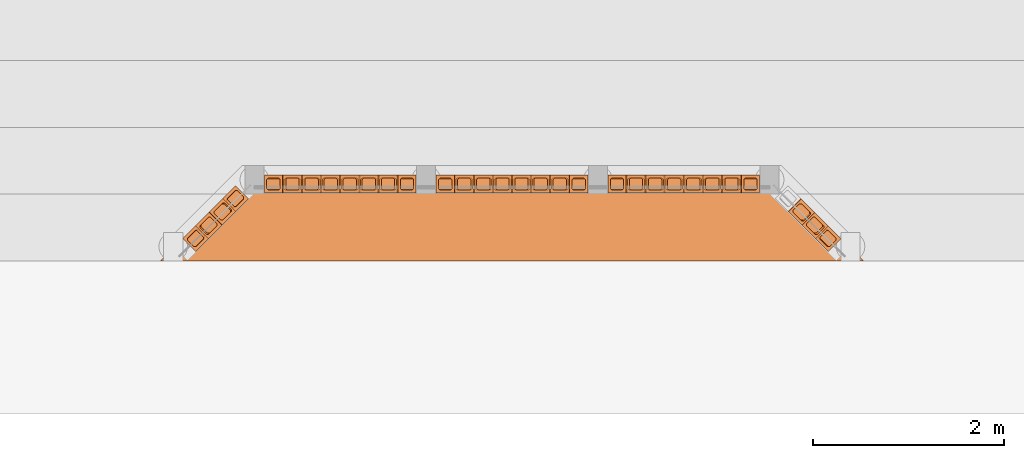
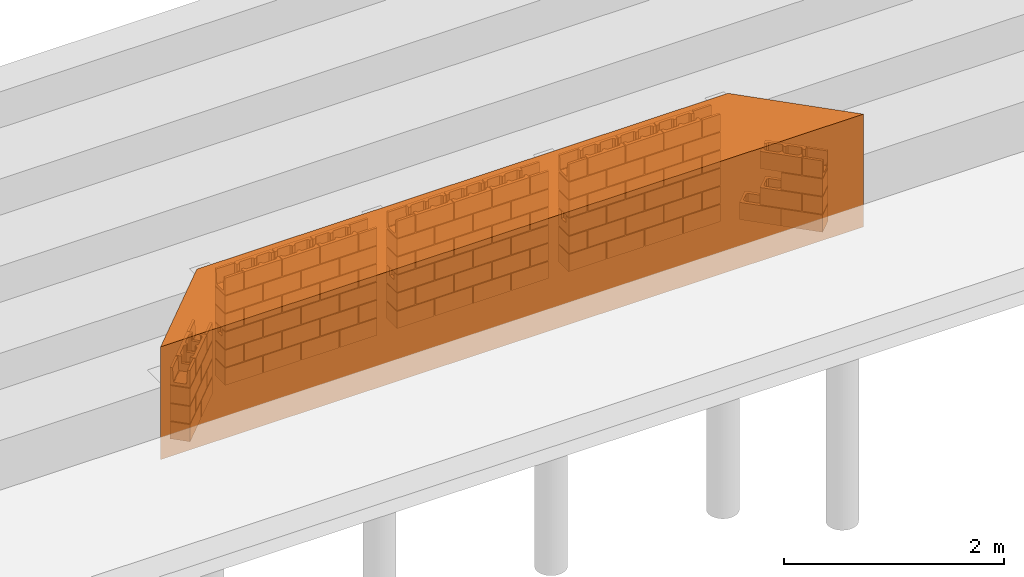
# One storey, part 3 of 4: 99 proxies.
"""IFC4 building model written with IfcOpenShell, lengths in centimetres."""

from ifc_helpers import new_model, entity, si_unit, converted_unit, derived_unit, direction, frame, origin, place, context, subcontext, project, spatial, line, arc, indexed_curve, outline, extrude, polygons, source, transform, mapped, material, type_object, type_shapes, element, save


model = new_model("IFC4")

# Units and contexts
model_context = context("Model", 3, precision=0.001, world=origin(), true_north=direction((6.123233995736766e-17, 1.0)))
body_context = subcontext(model_context, "Body", "Model", "MODEL_VIEW")
ifc_project = project(units=[si_unit("LENGTHUNIT", "METRE", prefix="CENTI"), si_unit("AREAUNIT", "SQUARE_METRE"), converted_unit("PLANEANGLEUNIT", "DEGREE", entity("IfcPlaneAngleMeasure", 0.017453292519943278), si_unit("PLANEANGLEUNIT", "RADIAN"), dimensions=[0, 0, 0, 0, 0, 0, 0]), si_unit("VOLUMEUNIT", "CUBIC_METRE"), derived_unit("THERMALTRANSMITTANCEUNIT", [(si_unit("MASSUNIT", "GRAM", prefix="KILO"), 1), (si_unit("THERMODYNAMICTEMPERATUREUNIT", "KELVIN"), -1), (si_unit("TIMEUNIT", "SECOND"), -3)])], contexts=[model_context])

# Site, building, storey
site_placement = place(None, origin())
site = spatial("IfcSite", under=ifc_project, at=site_placement, Name="Default", CompositionType="ELEMENT")
building_placement = place(site_placement, origin())
building = spatial("IfcBuilding", under=site, at=building_placement, Name="CONTENÇÃO DE ARQUIBANCADA - GINÁSIO PADRÃO", CompositionType="ELEMENT")
storey_placement = place(building_placement, origin())
storey = spatial("IfcBuildingStorey", under=building, at=storey_placement, Name="Nível 1", CompositionType="ELEMENT", Elevation=0.0)

# Proxies
ifc_material_1 = material(Name="Concreto, aerado", Category="Concreto")
building_element_proxy_type_1 = type_object("IfcBuildingElementProxyType", Name="Bloco de Concreto - Inteiro:Família 20 x 40 - Classe A", PredefinedType="NOTDEFINED", material=ifc_material_1)
shared_shape_1 = source(origin(), body_context, "Body", "SweptSolid", [
    extrude(outline(indexed_curve([(-19.499999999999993, -9.500000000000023), (19.499999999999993, -9.500000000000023), (19.499999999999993, 9.500000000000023), (-19.499999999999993, 9.500000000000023), (-19.499999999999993, -9.500000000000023)], self_intersect=False), holes=[indexed_curve([(2.750000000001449, -6.300000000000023), (1.2500000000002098, -4.799999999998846), (1.2500000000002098, 4.800000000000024), (2.7500000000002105, 6.300000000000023), (15.499999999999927, 6.300000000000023), (16.999999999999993, 4.799999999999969), (16.999999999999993, -4.799999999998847), (15.499999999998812, -6.300000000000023), (2.750000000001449, -6.300000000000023)], self_intersect=False), indexed_curve([(-15.50000000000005, -6.300000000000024), (-16.999999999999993, -4.799999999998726), (-16.999999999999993, 4.800000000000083), (-15.50000000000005, 6.300000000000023), (-2.749999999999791, 6.300000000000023), (-1.2499999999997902, 4.800000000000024), (-1.2499999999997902, -4.800000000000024), (-2.7499999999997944, -6.300000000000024), (-15.50000000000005, -6.300000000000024)], self_intersect=False)]), frame((0.0, 0.0, 0.0), z_axis=(0.0, 0.0, 1.0), x_axis=(-1.0, 0.0, 0.0)), (0.0, 0.0, 1.0), 19.0),
])
type_shapes(building_element_proxy_type_1, [shared_shape_1])
for number, where, z_axis, x_axis in (
    (1, (-12.153812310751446, 222.34882959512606, 1.0), (0.0, 0.0, 1.0), (0.706786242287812, 0.7074271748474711, 0.0)),
    (2, (-40.0845301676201, 194.41811173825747, 1.0), (0.0, 0.0, 1.0), (0.706786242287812, 0.7074271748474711, 0.0)),
):
    element("IfcBuildingElementProxy", number, at=place(storey_placement, frame(where, z_axis=z_axis, x_axis=x_axis)), inside=storey, type_object=building_element_proxy_type_1, material=ifc_material_1, Name="Bloco de Concreto - Inteiro:Família 20 x 40 - Classe A", ObjectType="Bloco de Concreto - Inteiro:Família 20 x 40 - Classe A", PredefinedType="NOTDEFINED", context=body_context, shape_type="MappedRepresentation", body=[
        mapped(shared_shape_1, transform((0.0, 0.0, 0.0), scale=1.0)),
    ])
for number, where in (
    (3, (44.455316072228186, 244.57417522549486, 1.0)),
    (4, (84.45531607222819, 244.57417522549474, 1.0)),
    (5, (124.45531607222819, 244.57417522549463, 1.0)),
    (6, (164.4553160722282, 244.5741752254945, 1.0)),
    (7, (404.4553160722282, 244.57417522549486, 1.0)),
    (8, (444.4553160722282, 244.57417522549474, 1.0)),
    (9, (484.4553160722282, 244.57417522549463, 1.0)),
    (10, (524.4553160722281, 244.5741752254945, 1.0)),
):
    element("IfcBuildingElementProxy", number, at=place(storey_placement, frame(where)), inside=storey, type_object=building_element_proxy_type_1, material=ifc_material_1, Name="Bloco de Concreto - Inteiro:Família 20 x 40 - Classe A", ObjectType="Bloco de Concreto - Inteiro:Família 20 x 40 - Classe A", PredefinedType="NOTDEFINED", context=body_context, shape_type="MappedRepresentation", body=[
        mapped(shared_shape_1, transform((0.0, 0.0, 0.0), scale=1.0)),
    ])
for number, where, z_axis, x_axis in (
    (11, (-25.939186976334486, 208.5570456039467, 21.0), (0.0, 0.0, 1.0), (-0.7067862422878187, -0.7074271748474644, 0.0)),
    (12, (-12.153812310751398, 222.34882959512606, 41.0), (0.0, 0.0, 1.0), (0.706786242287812, 0.7074271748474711, 0.0)),
    (13, (-40.08453016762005, 194.41811173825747, 41.0), (0.0, 0.0, 1.0), (0.706786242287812, 0.7074271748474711, 0.0)),
):
    element("IfcBuildingElementProxy", number, at=place(storey_placement, frame(where, z_axis=z_axis, x_axis=x_axis)), inside=storey, type_object=building_element_proxy_type_1, material=ifc_material_1, Name="Bloco de Concreto - Inteiro:Família 20 x 40 - Classe A", ObjectType="Bloco de Concreto - Inteiro:Família 20 x 40 - Classe A", PredefinedType="NOTDEFINED", context=body_context, shape_type="MappedRepresentation", body=[
        mapped(shared_shape_1, transform((0.0, 0.0, 0.0), scale=1.0)),
    ])
for number, where in (
    (14, (64.45531607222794, 244.57417522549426, 21.0)),
    (15, (104.45531607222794, 244.57417522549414, 21.0)),
    (16, (144.45531607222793, 244.57417522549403, 21.0)),
    (17, (64.45531607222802, 244.57417522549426, 61.0)),
    (18, (104.45531607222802, 244.57417522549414, 61.0)),
    (19, (144.455316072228, 244.57417522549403, 61.0)),
    (20, (44.45531607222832, 244.57417522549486, 81.0)),
    (21, (84.45531607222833, 244.57417522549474, 81.0)),
    (22, (124.4553160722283, 244.57417522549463, 81.0)),
    (23, (164.4553160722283, 244.5741752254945, 81.0)),
    (24, (424.45531607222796, 244.57417522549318, 21.0)),
    (25, (464.45531607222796, 244.574175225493, 21.0)),
    (26, (504.45531607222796, 244.5741752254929, 21.0)),
    (27, (424.455316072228, 244.57417522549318, 61.0)),
    (28, (464.455316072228, 244.574175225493, 61.0)),
    (29, (504.45531607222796, 244.5741752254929, 61.0)),
    (30, (404.4553160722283, 244.57417522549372, 81.0)),
    (31, (444.4553160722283, 244.5741752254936, 81.0)),
    (32, (484.4553160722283, 244.5741752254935, 81.0)),
    (33, (524.4553160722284, 244.57417522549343, 81.0)),
):
    element("IfcBuildingElementProxy", number, at=place(storey_placement, frame(where)), inside=storey, type_object=building_element_proxy_type_1, material=ifc_material_1, Name="Bloco de Concreto - Inteiro:Família 20 x 40 - Classe A", ObjectType="Bloco de Concreto - Inteiro:Família 20 x 40 - Classe A", PredefinedType="NOTDEFINED", context=body_context, shape_type="MappedRepresentation", body=[
        mapped(shared_shape_1, transform((0.0, 0.0, 0.0), scale=1.0)),
    ])
building_element_proxy_type_2 = type_object("IfcBuildingElementProxyType", Name="Bloco de Concreto - Inteiro:Família 20 x 40 - Classe A", PredefinedType="NOTDEFINED", material=ifc_material_1)
shared_shape_2 = source(origin(), body_context, "Body", "SweptSolid", [
    extrude(outline(indexed_curve([(-9.500000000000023, -19.499999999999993), (9.500000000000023, -19.499999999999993), (9.500000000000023, 19.499999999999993), (-9.500000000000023, 19.499999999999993), (-9.500000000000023, -19.499999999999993)], self_intersect=False), holes=[indexed_curve([(-6.300000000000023, 2.750000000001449), (-6.300000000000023, 15.499999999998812), (-4.799999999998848, 16.999999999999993), (4.799999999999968, 16.999999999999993), (6.300000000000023, 15.499999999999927), (6.300000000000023, 2.7500000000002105), (4.800000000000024, 1.2500000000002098), (-4.799999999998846, 1.2500000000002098), (-6.300000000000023, 2.750000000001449)], self_intersect=False), indexed_curve([(-6.300000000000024, -15.50000000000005), (-6.300000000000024, -2.7499999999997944), (-4.800000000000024, -1.2499999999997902), (4.800000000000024, -1.2499999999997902), (6.300000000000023, -2.749999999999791), (6.300000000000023, -15.50000000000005), (4.800000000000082, -16.999999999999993), (-4.799999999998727, -16.999999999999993), (-6.300000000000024, -15.50000000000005)], self_intersect=False)]), frame((0.0, 0.0, 0.0), z_axis=(0.0, 0.0, 1.0), x_axis=(0.0, 1.0, 0.0)), (0.0, 0.0, 1.0), 19.0),
])
type_shapes(building_element_proxy_type_2, [shared_shape_2])
for number, where, z_axis, x_axis in (
    (34, (344.4553160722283, 244.57417522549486, 1.0), (0.0, 0.0, 1.0), (-1.0, 0.0, 0.0)),
    (35, (304.4553160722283, 244.57417522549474, 1.0), (0.0, 0.0, 1.0), (-1.0, 0.0, 0.0)),
    (36, (264.4553160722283, 244.57417522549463, 1.0), (0.0, 0.0, 1.0), (-1.0, 0.0, 0.0)),
    (37, (224.4553160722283, 244.5741752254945, 1.0), (0.0, 0.0, 1.0), (-1.0, 0.0, 0.0)),
    (38, (580.9147583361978, 222.1992790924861, 1.0), (0.0, 0.0, 1.0), (-0.7067862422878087, 0.7074271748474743, 0.0)),
    (39, (324.4553160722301, 244.57417522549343, 21.0), (0.0, 0.0, 1.0), (-1.0, 0.0, 0.0)),
    (40, (284.4553160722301, 244.57417522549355, 21.0), (0.0, 0.0, 1.0), (-1.0, 0.0, 0.0)),
    (41, (244.45531607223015, 244.57417522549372, 21.0), (0.0, 0.0, 1.0), (-1.0, 0.0, 0.0)),
    (42, (324.45531607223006, 244.57417522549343, 61.0), (0.0, 0.0, 1.0), (-1.0, 0.0, 0.0)),
    (43, (284.45531607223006, 244.57417522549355, 61.0), (0.0, 0.0, 1.0), (-1.0, 0.0, 0.0)),
    (44, (244.4553160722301, 244.57417522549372, 61.0), (0.0, 0.0, 1.0), (-1.0, 0.0, 0.0)),
    (45, (344.4553160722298, 244.5741752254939, 81.0), (0.0, 0.0, 1.0), (-1.0, 0.0, 0.0)),
    (46, (304.4553160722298, 244.57417522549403, 81.0), (0.0, 0.0, 1.0), (-1.0, 0.0, 0.0)),
    (47, (264.4553160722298, 244.5741752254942, 81.0), (0.0, 0.0, 1.0), (-1.0, 0.0, 0.0)),
    (48, (224.45531607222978, 244.57417522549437, 81.0), (0.0, 0.0, 1.0), (-1.0, 0.0, 0.0)),
    (49, (608.6707558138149, 194.41811173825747, 1.0), (0.0, 0.0, 1.0), (-0.706786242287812, 0.7074271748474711, 0.0)),
    (50, (594.5254126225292, 208.5570456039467, 21.0), (0.0, 0.0, 1.0), (0.7067862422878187, -0.7074271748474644, 0.0)),
    (51, (608.6707558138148, 194.41811173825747, 41.0), (0.0, 0.0, 1.0), (-0.706786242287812, 0.7074271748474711, 0.0)),
):
    element("IfcBuildingElementProxy", number, at=place(storey_placement, frame(where, z_axis=z_axis, x_axis=x_axis)), inside=storey, type_object=building_element_proxy_type_2, material=ifc_material_1, Name="Bloco de Concreto - Inteiro:Família 20 x 40 - Classe A", ObjectType="Bloco de Concreto - Inteiro:Família 20 x 40 - Classe A", PredefinedType="NOTDEFINED", context=body_context, shape_type="MappedRepresentation", body=[
        mapped(shared_shape_2, transform((0.0, 0.0, 0.0), scale=1.0)),
    ])
ifc_material_2 = material(Name="<Unnamed>")
building_element_proxy_type_3 = type_object("IfcBuildingElementProxyType", Name="Modelos genéricos 1:Modelos genéricos 1", PredefinedType="NOTDEFINED", material=ifc_material_2)
shared_shape_3 = source(origin(), body_context, "Body", "SweptSolid", [
    extrude(outline(indexed_curve([(-278.2867730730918, -45.00000000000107), (278.32754329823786, -45.000000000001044), (368.24600284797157, 45.00000000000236), (-368.2867730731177, 44.999999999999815), (-278.2867730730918, -45.00000000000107)], self_intersect=False)), frame((284.4413891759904, 209.07417522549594, 0.0), z_axis=(0.0, 0.0, 1.0), x_axis=(-1.0, 0.0, 0.0)), (0.0, 0.0, 1.0), 125.0),
])
type_shapes(building_element_proxy_type_3, [shared_shape_3])
proxy_1_placement = place(storey_placement, origin())
element("IfcBuildingElementProxy", 52, at=proxy_1_placement, inside=storey, type_object=building_element_proxy_type_3, material=ifc_material_2, Name="Modelos genéricos 1:Modelos genéricos 1", ObjectType="Modelos genéricos 1:Modelos genéricos 1", PredefinedType="NOTDEFINED", context=body_context, shape_type="MappedRepresentation", body=[
    mapped(shared_shape_3, transform((0.0, 0.0, 0.0), scale=1.0)),
])
building_element_proxy_type_4 = type_object("IfcBuildingElementProxyType", Name="Bloco de Concreto - Meio:Família 20 x 40 - Classe A", PredefinedType="NOTDEFINED", material=ifc_material_1)
shared_shape_4 = source(origin(), body_context, "Body", "SweptSolid", [
    extrude(outline(indexed_curve([(-9.499999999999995, -9.500000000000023), (9.499999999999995, -9.500000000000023), (9.499999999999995, 9.500000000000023), (-9.499999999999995, 9.500000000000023), (-9.499999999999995, -9.500000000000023)], self_intersect=False), holes=[indexed_curve([(-5.499999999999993, -6.300000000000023), (-6.999999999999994, -4.799999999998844), (-6.999999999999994, 4.800000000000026), (-5.499999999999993, 6.300000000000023), (5.4999999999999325, 6.300000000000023), (6.999999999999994, 4.799999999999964), (6.999999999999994, -4.799999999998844), (5.4999999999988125, -6.300000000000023), (-5.499999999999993, -6.300000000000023)], self_intersect=False)]), frame((0.0, 0.0, 0.0), z_axis=(0.0, 0.0, 1.0), x_axis=(-1.0, 0.0, 0.0)), (0.0, 0.0, 1.0), 19.0),
])
type_shapes(building_element_proxy_type_4, [shared_shape_4])
for number, where, z_axis, x_axis in (
    (53, (-5.085949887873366, 229.4231013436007, 21.0), (0.0, 0.0, 1.0), (-0.7067862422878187, -0.7074271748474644, 0.0)),
    (54, (-47.1523925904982, 187.34383998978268, 21.0), (0.0, 0.0, 1.0), (-0.7067862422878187, -0.7074271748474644, 0.0)),
    (55, (34.455316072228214, 244.57417522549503, 21.0), (0.0, 0.0, 1.0), (-1.0, 0.0, 0.0)),
    (56, (174.4553160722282, 244.57417522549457, 21.0), (0.0, 0.0, 1.0), (-1.0, 0.0, 0.0)),
    (57, (34.45531607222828, 244.57417522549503, 61.0), (0.0, 0.0, 1.0), (-1.0, 0.0, 0.0)),
    (58, (174.45531607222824, 244.57417522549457, 61.0), (0.0, 0.0, 1.0), (-1.0, 0.0, 0.0)),
    (59, (394.4553160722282, 244.5741752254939, 21.0), (0.0, 0.0, 1.0), (-1.0, 0.0, 0.0)),
    (60, (534.4553160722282, 244.57417522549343, 21.0), (0.0, 0.0, 1.0), (-1.0, 0.0, 0.0)),
    (61, (394.4553160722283, 244.5741752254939, 61.0), (0.0, 0.0, 1.0), (-1.0, 0.0, 0.0)),
    (62, (534.4553160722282, 244.57417522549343, 61.0), (0.0, 0.0, 1.0), (-1.0, 0.0, 0.0)),
):
    element("IfcBuildingElementProxy", number, at=place(storey_placement, frame(where, z_axis=z_axis, x_axis=x_axis)), inside=storey, type_object=building_element_proxy_type_4, material=ifc_material_1, Name="Bloco de Concreto - Meio:Família 20 x 40 - Classe A", ObjectType="Bloco de Concreto - Meio:Família 20 x 40 - Classe A", PredefinedType="NOTDEFINED", context=body_context, shape_type="MappedRepresentation", body=[
        mapped(shared_shape_4, transform((0.0, 0.0, 0.0), scale=1.0)),
    ])
building_element_proxy_type_5 = type_object("IfcBuildingElementProxyType", Name="Bloco de Concreto - Meia Canaleta:Família 20 x 40 - Classe A", PredefinedType="NOTDEFINED", material=ifc_material_1)
shared_shape_5 = source(origin(), body_context, "Body", "SweptSolid", [
    extrude(outline(indexed_curve([(-9.161189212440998, -9.498255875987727), (9.838810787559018, -9.498255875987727), (9.838810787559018, -6.998255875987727), (-4.563963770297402, -6.298255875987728), (-5.551951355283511, -5.889018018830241), (-5.961189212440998, -4.901030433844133), (-5.961189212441, 4.8870774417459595), (-5.546842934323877, 5.887397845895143), (-4.546522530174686, 6.301744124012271), (9.838810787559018, 7.00174412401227), (9.838810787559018, 9.501744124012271), (-9.161189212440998, 9.501744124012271)], segments=[line(1, 2, 3, 4), arc(4, 5, 6), line(6, 7), arc(7, 8, 9), line(9, 10, 11, 12, 1)], self_intersect=False)), frame((-9.5, 0.0017441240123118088, 9.161189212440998), z_axis=(1.0, 0.0, 0.0), x_axis=(0.0, 0.0, 1.0)), (0.0, 0.0, 1.0), 18.999999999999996),
])
type_shapes(building_element_proxy_type_5, [shared_shape_5])
for number, where, z_axis, x_axis in (
    (63, (-5.08594988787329, 229.4231013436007, 61.0), (0.0, 0.0, 1.0), (-0.7067862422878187, -0.7074271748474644, 0.0)),
    (64, (-47.152392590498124, 187.34383998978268, 61.0), (0.0, 0.0, 1.0), (-0.7067862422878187, -0.7074271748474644, 0.0)),
    (65, (34.45531607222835, 244.57417522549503, 101.0), (0.0, 0.0, 1.0), (-1.0, 0.0, 0.0)),
    (66, (174.4553160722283, 244.57417522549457, 101.0), (0.0, 0.0, 1.0), (-1.0, 0.0, 0.0)),
    (67, (394.45531607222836, 244.5741752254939, 101.0), (0.0, 0.0, 1.0), (-1.0, 0.0, 0.0)),
    (68, (534.4553160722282, 244.57417522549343, 101.0), (0.0, 0.0, 1.0), (-1.0, 0.0, 0.0)),
):
    element("IfcBuildingElementProxy", number, at=place(storey_placement, frame(where, z_axis=z_axis, x_axis=x_axis)), inside=storey, type_object=building_element_proxy_type_5, material=ifc_material_1, Name="Bloco de Concreto - Meia Canaleta:Família 20 x 40 - Classe A", ObjectType="Bloco de Concreto - Meia Canaleta:Família 20 x 40 - Classe A", PredefinedType="NOTDEFINED", context=body_context, shape_type="MappedRepresentation", body=[
        mapped(shared_shape_5, transform((0.0, 0.0, 0.0), scale=1.0)),
    ])
building_element_proxy_type_6 = type_object("IfcBuildingElementProxyType", Name="Bloco de Concreto - Canaleta Inteira:Família 20 x 40 - Classe A", PredefinedType="NOTDEFINED", material=ifc_material_1)
shared_shape_6 = source(origin(), body_context, "Body", "Tessellation", [
    polygons([(19.500000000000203, 9.500000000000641, 19.0), (-19.499999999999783, 9.500000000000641, 19.0), (-19.499999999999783, 4.00000000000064, 19.0), (-16.999999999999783, 4.00000000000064, 19.0), (-16.999999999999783, 4.799999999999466, 19.0), (-15.4999999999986, 6.300000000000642, 19.0), (-2.7500000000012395, 6.300000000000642, 19.0), (-1.25, 4.799999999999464, 19.0), (-1.25, 4.00000000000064, 19.0), (1.25, 4.00000000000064, 19.0), (1.25, 4.800000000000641, 19.0), (2.750000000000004, 6.300000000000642, 19.0), (15.50000000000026, 6.300000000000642, 19.0), (17.000000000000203, 4.799999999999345, 19.0), (17.000000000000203, 4.00000000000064, 19.0), (19.500000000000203, 4.00000000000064, 19.0), (19.5, 9.500000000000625, 0.0), (-19.49999999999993, 9.500000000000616, 0.0), (-19.5, -9.49999999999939, 0.0), (-19.499999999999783, -9.499999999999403, 19.0), (-19.499999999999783, -3.9999999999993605, 19.0), (-19.499999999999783, -3.9999999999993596, 11.000000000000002), (-19.499999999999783, 4.00000000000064, 11.000000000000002), (19.500000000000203, -9.499999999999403, 19.0), (19.500000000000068, -9.499999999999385, 0.0), (19.500000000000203, 4.00000000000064, 11.000000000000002), (19.500000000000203, -3.9999999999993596, 11.000000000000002), (19.500000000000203, -3.9999999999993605, 19.0), (-1.2499999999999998, 4.799999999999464, 0.2999999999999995), (-1.25, -4.7999999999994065, 0.2999999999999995), (-1.25, -4.7999999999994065, 19.0), (-1.25, -3.9999999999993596, 19.0), (-1.250000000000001, -3.9999999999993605, 11.000000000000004), (-1.250000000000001, 4.00000000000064, 11.000000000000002), (-15.499999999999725, -6.299999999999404, 19.0), (-2.750000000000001, -6.299999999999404, 19.0), (-2.750000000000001, -6.299999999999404, 0.2999999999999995), (-15.499999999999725, -6.299999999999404, 0.2999999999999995), (-16.999999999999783, -4.799999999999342, 19.0), (-16.999999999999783, -4.799999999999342, 0.2999999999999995), (-16.999999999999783, 4.799999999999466, 0.2999999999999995), (-16.999999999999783, 4.00000000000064, 11.000000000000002), (-16.999999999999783, -3.9999999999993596, 11.000000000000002), (-16.999999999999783, -3.9999999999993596, 19.0), (-15.4999999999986, 6.300000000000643, 0.2999999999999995), (-2.7500000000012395, 6.300000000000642, 0.2999999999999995), (17.000000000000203, 4.799999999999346, 0.2999999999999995), (17.000000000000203, -4.7999999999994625, 0.2999999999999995), (17.000000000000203, -4.799999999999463, 19.0), (17.000000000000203, -3.9999999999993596, 19.0), (17.000000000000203, -3.9999999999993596, 11.000000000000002), (17.000000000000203, 4.00000000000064, 11.000000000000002), (2.750000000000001, -6.299999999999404, 19.0), (15.50000000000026, -6.299999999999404, 19.0), (15.500000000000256, -6.299999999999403, 0.2999999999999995), (2.750000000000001, -6.299999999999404, 0.2999999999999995), (1.25, -4.799999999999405, 19.0), (1.25, -4.799999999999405, 0.2999999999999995), (1.25, 4.800000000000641, 0.2999999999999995), (1.25, 4.00000000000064, 11.000000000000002), (1.25, -3.9999999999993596, 11.000000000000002), (1.25, -3.9999999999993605, 19.0), (2.750000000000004, 6.300000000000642, 0.2999999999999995), (15.50000000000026, 6.300000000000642, 0.2999999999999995)], [[[1, 2, 3, 4, 5, 6, 7, 8, 9, 10, 11, 12, 13, 14, 15, 16]], [[2, 1, 17, 18]], [[18, 19, 20, 21, 22, 23, 3, 2]], [[24, 20, 19, 25]], [[25, 17, 1, 16, 26, 27, 28, 24]], [[8, 29, 30, 31, 32, 33, 34, 9]], [[35, 36, 37, 38]], [[39, 40, 41, 5, 4, 42, 43, 44]], [[7, 6, 45, 46]], [[14, 47, 48, 49, 50, 51, 52, 15]], [[53, 54, 55, 56]], [[57, 58, 59, 11, 10, 60, 61, 62]], [[13, 12, 63, 64]], [[8, 7, 46, 29]], [[36, 31, 30, 37]], [[39, 35, 38, 40]], [[6, 5, 41, 45]], [[14, 13, 64, 47]], [[54, 49, 48, 55]], [[57, 53, 56, 58]], [[12, 11, 59, 63]], [[48, 47, 64, 63, 59, 58, 56, 55]], [[17, 25, 19, 18]], [[22, 43, 42, 23]], [[23, 42, 4, 3]], [[27, 51, 50, 28]], [[61, 33, 32, 62]], [[43, 22, 21, 44]], [[34, 60, 10, 9]], [[52, 26, 16, 15]], [[33, 61, 60, 34]], [[51, 27, 26, 52]], [[30, 29, 46, 45, 41, 40, 38, 37]], [[20, 24, 28, 50, 49, 54, 53, 57, 62, 32, 31, 36, 35, 39, 44, 21]]], closed=True),
])
type_shapes(building_element_proxy_type_6, [shared_shape_6])
proxy_2_placement = place(storey_placement, frame((-25.93918697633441, 208.5570456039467, 61.0), z_axis=(0.0, 0.0, 1.0), x_axis=(-0.7067862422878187, -0.7074271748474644, 0.0)))
element("IfcBuildingElementProxy", 69, at=proxy_2_placement, inside=storey, type_object=building_element_proxy_type_6, material=ifc_material_1, Name="Bloco de Concreto - Canaleta Inteira:Família 20 x 40 - Classe A", ObjectType="Bloco de Concreto - Canaleta Inteira:Família 20 x 40 - Classe A", PredefinedType="NOTDEFINED", context=body_context, shape_type="MappedRepresentation", body=[
    mapped(shared_shape_6, transform((0.0, 0.0, 0.0), scale=1.0)),
])
for number, where in (
    (70, (44.45531607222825, 244.57417522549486, 41.0)),
    (71, (84.45531607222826, 244.57417522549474, 41.0)),
    (72, (124.45531607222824, 244.57417522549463, 41.0)),
    (73, (164.45531607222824, 244.5741752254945, 41.0)),
    (74, (64.45531607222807, 244.57417522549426, 101.0)),
    (75, (104.45531607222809, 244.57417522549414, 101.0)),
    (76, (144.45531607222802, 244.57417522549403, 101.0)),
    (77, (404.45531607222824, 244.57417522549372, 41.0)),
    (78, (444.45531607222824, 244.5741752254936, 41.0)),
    (79, (484.45531607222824, 244.5741752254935, 41.0)),
    (80, (524.4553160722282, 244.57417522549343, 41.0)),
    (81, (424.4553160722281, 244.57417522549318, 101.0)),
    (82, (464.4553160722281, 244.574175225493, 101.0)),
    (83, (504.455316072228, 244.5741752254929, 101.0)),
):
    element("IfcBuildingElementProxy", number, at=place(storey_placement, frame(where)), inside=storey, type_object=building_element_proxy_type_6, material=ifc_material_1, Name="Bloco de Concreto - Canaleta Inteira:Família 20 x 40 - Classe A", ObjectType="Bloco de Concreto - Canaleta Inteira:Família 20 x 40 - Classe A", PredefinedType="NOTDEFINED", context=body_context, shape_type="MappedRepresentation", body=[
        mapped(shared_shape_6, transform((0.0, 0.0, 0.0), scale=1.0)),
    ])
building_element_proxy_type_7 = type_object("IfcBuildingElementProxyType", Name="Bloco de Concreto - Meio:Família 20 x 40 - Classe A", PredefinedType="NOTDEFINED", material=ifc_material_1)
shared_shape_7 = source(origin(), body_context, "Body", "SweptSolid", [
    extrude(outline(indexed_curve([(-9.500000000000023, -9.499999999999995), (9.500000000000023, -9.499999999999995), (9.500000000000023, 9.499999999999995), (-9.500000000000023, 9.499999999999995), (-9.500000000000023, -9.499999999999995)], self_intersect=False), holes=[indexed_curve([(-6.300000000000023, -5.499999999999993), (-6.300000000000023, 5.4999999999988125), (-4.799999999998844, 6.999999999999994), (4.799999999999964, 6.999999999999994), (6.300000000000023, 5.4999999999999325), (6.300000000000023, -5.499999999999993), (4.800000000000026, -6.999999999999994), (-4.799999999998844, -6.999999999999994), (-6.300000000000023, -5.499999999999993)], self_intersect=False)]), frame((0.0, 0.0, 0.0), z_axis=(0.0, 0.0, 1.0), x_axis=(0.0, 1.0, 0.0)), (0.0, 0.0, 1.0), 19.0),
])
type_shapes(building_element_proxy_type_7, [shared_shape_7])
for number, where in (
    (84, (354.4553160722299, 244.57417522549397, 21.0)),
    (85, (214.45531607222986, 244.57417522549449, 21.0)),
    (86, (354.4553160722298, 244.57417522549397, 61.0)),
    (87, (214.4553160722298, 244.57417522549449, 61.0)),
):
    element("IfcBuildingElementProxy", number, at=place(storey_placement, frame(where)), inside=storey, type_object=building_element_proxy_type_7, material=ifc_material_1, Name="Bloco de Concreto - Meio:Família 20 x 40 - Classe A", ObjectType="Bloco de Concreto - Meio:Família 20 x 40 - Classe A", PredefinedType="NOTDEFINED", context=body_context, shape_type="MappedRepresentation", body=[
        mapped(shared_shape_7, transform((0.0, 0.0, 0.0), scale=1.0)),
    ])
proxy_3_placement = place(storey_placement, frame((615.738618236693, 187.34383998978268, 21.0), z_axis=(0.0, 0.0, 1.0), x_axis=(0.7067862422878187, -0.7074271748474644, 0.0)))
element("IfcBuildingElementProxy", 88, at=proxy_3_placement, inside=storey, type_object=building_element_proxy_type_7, material=ifc_material_1, Name="Bloco de Concreto - Meio:Família 20 x 40 - Classe A", ObjectType="Bloco de Concreto - Meio:Família 20 x 40 - Classe A", PredefinedType="NOTDEFINED", context=body_context, shape_type="MappedRepresentation", body=[
    mapped(shared_shape_7, transform((0.0, 0.0, 0.0), scale=1.0)),
])
building_element_proxy_type_8 = type_object("IfcBuildingElementProxyType", Name="Bloco de Concreto - Canaleta Inteira:Família 20 x 40 - Classe A", PredefinedType="NOTDEFINED", material=ifc_material_1)
shared_shape_8 = source(origin(), body_context, "Body", "Tessellation", [
    polygons([(19.500000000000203, -9.500000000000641, 19.0), (19.500000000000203, -4.00000000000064, 19.0), (17.000000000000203, -4.00000000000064, 19.0), (17.000000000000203, -4.799999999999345, 19.0), (15.50000000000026, -6.300000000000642, 19.0), (2.750000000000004, -6.300000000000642, 19.0), (1.25, -4.800000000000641, 19.0), (1.25, -4.00000000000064, 19.0), (-1.25, -4.00000000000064, 19.0), (-1.25, -4.799999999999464, 19.0), (-2.7500000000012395, -6.300000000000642, 19.0), (-15.4999999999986, -6.300000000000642, 19.0), (-16.999999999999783, -4.799999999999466, 19.0), (-16.999999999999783, -4.00000000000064, 19.0), (-19.499999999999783, -4.00000000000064, 19.0), (-19.499999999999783, -9.500000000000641, 19.0), (-19.49999999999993, -9.500000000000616, 0.0), (19.5, -9.500000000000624, 0.0), (-19.499999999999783, -4.00000000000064, 11.000000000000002), (-19.499999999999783, 3.9999999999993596, 11.000000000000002), (-19.499999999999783, 3.9999999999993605, 19.0), (-19.499999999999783, 9.499999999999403, 19.0), (-19.5, 9.499999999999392, 0.0), (19.500000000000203, 9.499999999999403, 19.0), (19.500000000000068, 9.499999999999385, 0.0), (19.500000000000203, 3.9999999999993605, 19.0), (19.500000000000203, 3.9999999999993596, 11.000000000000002), (19.500000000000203, -4.00000000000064, 11.000000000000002), (-1.250000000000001, -4.00000000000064, 11.000000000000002), (-1.250000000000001, 3.9999999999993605, 11.000000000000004), (-1.25, 3.9999999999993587, 19.0), (-1.25, 4.7999999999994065, 19.0), (-1.25, 4.7999999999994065, 0.2999999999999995), (-1.2499999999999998, -4.799999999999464, 0.2999999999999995), (-15.499999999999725, 6.299999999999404, 19.0), (-15.499999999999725, 6.299999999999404, 0.2999999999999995), (-2.750000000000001, 6.299999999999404, 0.2999999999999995), (-2.750000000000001, 6.299999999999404, 19.0), (-16.999999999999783, 4.799999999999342, 19.0), (-16.999999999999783, 3.9999999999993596, 19.0), (-16.999999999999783, 3.9999999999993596, 11.000000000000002), (-16.999999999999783, -4.00000000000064, 11.000000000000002), (-16.999999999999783, -4.799999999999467, 0.2999999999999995), (-16.999999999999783, 4.799999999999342, 0.2999999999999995), (-2.7500000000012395, -6.300000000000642, 0.2999999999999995), (-15.4999999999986, -6.300000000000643, 0.2999999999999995), (17.000000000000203, -4.00000000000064, 11.000000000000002), (17.000000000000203, 3.9999999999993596, 11.000000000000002), (17.000000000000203, 3.9999999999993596, 19.0), (17.000000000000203, 4.799999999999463, 19.0), (17.000000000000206, 4.7999999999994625, 0.2999999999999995), (17.000000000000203, -4.799999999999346, 0.2999999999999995), (2.750000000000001, 6.299999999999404, 19.0), (2.750000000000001, 6.299999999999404, 0.2999999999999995), (15.500000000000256, 6.299999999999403, 0.2999999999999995), (15.50000000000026, 6.299999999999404, 19.0), (1.25, 4.799999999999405, 19.0), (1.25, 3.9999999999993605, 19.0), (1.25, 3.9999999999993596, 11.000000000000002), (1.25, -4.00000000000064, 11.000000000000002), (1.25, -4.800000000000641, 0.2999999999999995), (1.25, 4.799999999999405, 0.2999999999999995), (15.50000000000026, -6.300000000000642, 0.2999999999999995), (2.750000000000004, -6.300000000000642, 0.2999999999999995)], [[[1, 2, 3, 4, 5, 6, 7, 8, 9, 10, 11, 12, 13, 14, 15, 16]], [[16, 17, 18, 1]], [[17, 16, 15, 19, 20, 21, 22, 23]], [[24, 25, 23, 22]], [[25, 24, 26, 27, 28, 2, 1, 18]], [[10, 9, 29, 30, 31, 32, 33, 34]], [[35, 36, 37, 38]], [[39, 40, 41, 42, 14, 13, 43, 44]], [[11, 45, 46, 12]], [[4, 3, 47, 48, 49, 50, 51, 52]], [[53, 54, 55, 56]], [[57, 58, 59, 60, 8, 7, 61, 62]], [[5, 63, 64, 6]], [[10, 34, 45, 11]], [[38, 37, 33, 32]], [[39, 44, 36, 35]], [[12, 46, 43, 13]], [[4, 52, 63, 5]], [[56, 55, 51, 50]], [[57, 62, 54, 53]], [[6, 64, 61, 7]], [[51, 55, 54, 62, 61, 64, 63, 52]], [[18, 17, 23, 25]], [[20, 19, 42, 41]], [[19, 15, 14, 42]], [[27, 26, 49, 48]], [[59, 58, 31, 30]], [[41, 40, 21, 20]], [[29, 9, 8, 60]], [[47, 3, 2, 28]], [[30, 29, 60, 59]], [[48, 47, 28, 27]], [[33, 37, 36, 44, 43, 46, 45, 34]], [[22, 21, 40, 39, 35, 38, 32, 31, 58, 57, 53, 56, 50, 49, 26, 24]]], closed=True),
])
type_shapes(building_element_proxy_type_8, [shared_shape_8])
for number, where, z_axis, x_axis in (
    (89, (344.45531607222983, 244.5741752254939, 41.0), (0.0, 0.0, 1.0), (-1.0, 0.0, 0.0)),
    (90, (304.45531607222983, 244.57417522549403, 41.0), (0.0, 0.0, 1.0), (-1.0, 0.0, 0.0)),
    (91, (264.45531607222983, 244.5741752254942, 41.0), (0.0, 0.0, 1.0), (-1.0, 0.0, 0.0)),
    (92, (224.4553160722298, 244.57417522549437, 41.0), (0.0, 0.0, 1.0), (-1.0, 0.0, 0.0)),
    (93, (324.45531607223, 244.57417522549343, 101.0), (0.0, 0.0, 1.0), (-1.0, 0.0, 0.0)),
    (94, (284.45531607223, 244.57417522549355, 101.0), (0.0, 0.0, 1.0), (-1.0, 0.0, 0.0)),
    (95, (244.45531607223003, 244.57417522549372, 101.0), (0.0, 0.0, 1.0), (-1.0, 0.0, 0.0)),
    (96, (594.5254126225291, 208.5570456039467, 61.0), (0.0, 0.0, 1.0), (0.7067862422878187, -0.7074271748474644, 0.0)),
):
    element("IfcBuildingElementProxy", number, at=place(storey_placement, frame(where, z_axis=z_axis, x_axis=x_axis)), inside=storey, type_object=building_element_proxy_type_8, material=ifc_material_1, Name="Bloco de Concreto - Canaleta Inteira:Família 20 x 40 - Classe A", ObjectType="Bloco de Concreto - Canaleta Inteira:Família 20 x 40 - Classe A", PredefinedType="NOTDEFINED", context=body_context, shape_type="MappedRepresentation", body=[
        mapped(shared_shape_8, transform((0.0, 0.0, 0.0), scale=1.0)),
    ])
building_element_proxy_type_9 = type_object("IfcBuildingElementProxyType", Name="Bloco de Concreto - Meia Canaleta:Família 20 x 40 - Classe A", PredefinedType="NOTDEFINED", material=ifc_material_1)
shared_shape_9 = source(origin(), body_context, "Body", "SweptSolid", [
    extrude(outline(indexed_curve([(-9.498255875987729, -9.161189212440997), (9.50174412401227, -9.161189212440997), (9.50174412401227, 9.838810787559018), (7.0017441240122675, 9.838810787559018), (6.30174412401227, -4.546522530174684), (5.887397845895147, -5.546842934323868), (4.887077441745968, -5.961189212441), (-4.9010304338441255, -5.961189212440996), (-5.889018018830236, -5.551951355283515), (-6.29825587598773, -4.563963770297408), (-6.99825587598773, 9.838810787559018), (-9.498255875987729, 9.838810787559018)], segments=[line(1, 2, 3, 4, 5), arc(5, 6, 7), line(7, 8), arc(8, 9, 10), line(10, 11, 12, 1)], self_intersect=False)), frame((-9.5, -0.0017441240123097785, 9.161189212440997), z_axis=(1.0, 0.0, 0.0), x_axis=(0.0, 1.0, 0.0)), (0.0, 0.0, 1.0), 18.999999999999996),
])
type_shapes(building_element_proxy_type_9, [shared_shape_9])
for number, where in (
    (97, (354.4553160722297, 244.57417522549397, 101.0)),
    (98, (214.45531607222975, 244.57417522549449, 101.0)),
):
    element("IfcBuildingElementProxy", number, at=place(storey_placement, frame(where)), inside=storey, type_object=building_element_proxy_type_9, material=ifc_material_1, Name="Bloco de Concreto - Meia Canaleta:Família 20 x 40 - Classe A", ObjectType="Bloco de Concreto - Meia Canaleta:Família 20 x 40 - Classe A", PredefinedType="NOTDEFINED", context=body_context, shape_type="MappedRepresentation", body=[
        mapped(shared_shape_9, transform((0.0, 0.0, 0.0), scale=1.0)),
    ])
proxy_4_placement = place(storey_placement, frame((615.7386182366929, 187.34383998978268, 61.0), z_axis=(0.0, 0.0, 1.0), x_axis=(0.7067862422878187, -0.7074271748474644, 0.0)))
element("IfcBuildingElementProxy", 99, at=proxy_4_placement, inside=storey, type_object=building_element_proxy_type_9, material=ifc_material_1, Name="Bloco de Concreto - Meia Canaleta:Família 20 x 40 - Classe A", ObjectType="Bloco de Concreto - Meia Canaleta:Família 20 x 40 - Classe A", PredefinedType="NOTDEFINED", context=body_context, shape_type="MappedRepresentation", body=[
    mapped(shared_shape_9, transform((0.0, 0.0, 0.0), scale=1.0)),
])

save(model, "model.ifc")
